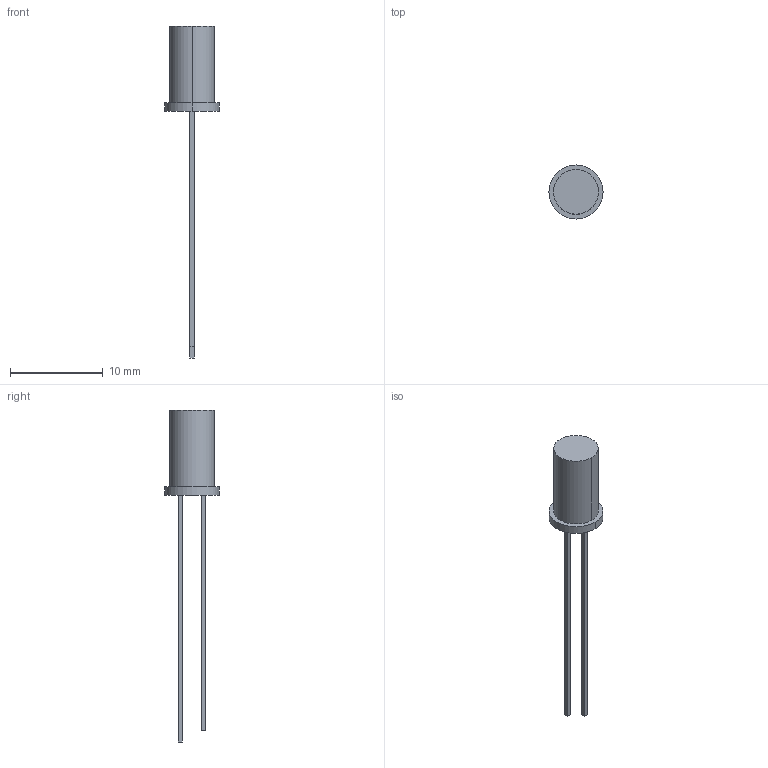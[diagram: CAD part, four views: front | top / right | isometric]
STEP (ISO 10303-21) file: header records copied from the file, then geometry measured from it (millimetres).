
FILE_DESCRIPTION(('FreeCAD Model'),'2;1');
FILE_NAME('/var/www/3D/0T/13327671.1.4.stp','2022-01-14T16:41:39',( 'Author'),(''),'Open CASCADE STEP processor 6.9','FreeCAD','Unknown' );
FILE_SCHEMA(('AUTOMOTIVE_DESIGN { 1 0 10303 214 1 1 1 1 }'));
Length unit declared in the file: millimetre
Products named in the file (3): ASSEMBLY; solidLead; solidBody
Assembly tree (2 placements, depth 2):
  ASSEMBLY
    solidLead
    solidBody
Bounding box: 5.84 x 5.84 x 35.84 mm (x, y, z)
Volume: 187.4 mm3; surface area: 295.7 mm2
Topology: 3 solids, 3 shells, 19 faces, 36 edges, 24 vertices
Faces by surface type: plane 15, cylinder 4
Entity records: 1019 total; most frequent: DIRECTION 160, CARTESIAN_POINT 154, LINE 92, VECTOR 92, ORIENTED_EDGE 72, PCURVE 72, DEFINITIONAL_REPRESENTATION 72, EDGE_CURVE 36
